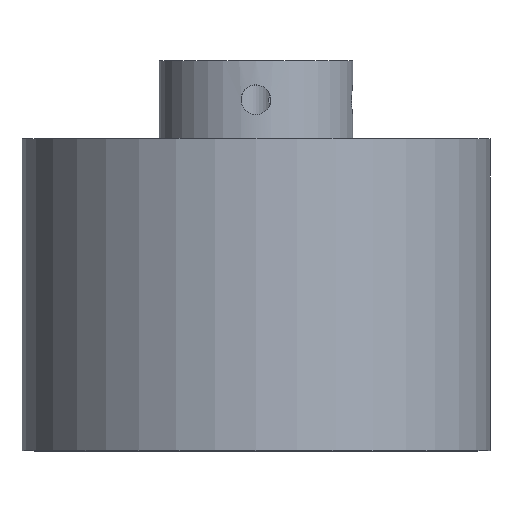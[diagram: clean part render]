
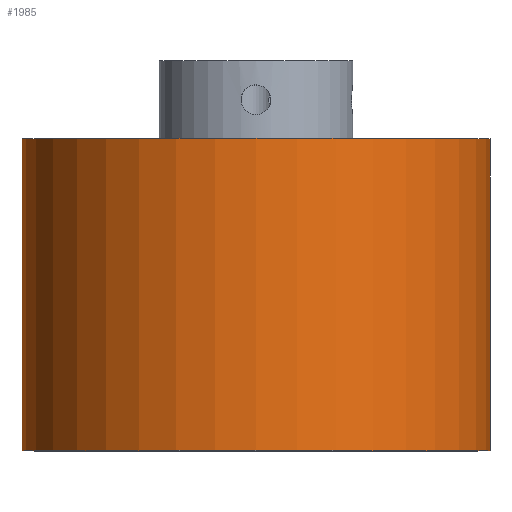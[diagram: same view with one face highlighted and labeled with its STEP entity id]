
A CAD part, top view. The second image highlights one B-rep face of the part: STEP entity #1985.
In plain terms, the highlighted cylindrical face has radius 38.1 mm (diameter 76.2 mm), a full revolution.
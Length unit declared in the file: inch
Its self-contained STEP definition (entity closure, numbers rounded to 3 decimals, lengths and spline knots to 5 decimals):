
#271=FACE_OUTER_BOUND('',#380,.T.);
#380=EDGE_LOOP('',(#1709,#1710,#1711,#1712));
#549=LINE('',#3327,#695);
#695=VECTOR('',#2779,1.5);
#702=CIRCLE('',#2018,1.5);
#815=CIRCLE('',#2216,1.5);
#822=VERTEX_POINT('',#2818);
#991=VERTEX_POINT('',#3325);
#1009=EDGE_CURVE('',#822,#822,#702,.T.);
#1262=EDGE_CURVE('',#991,#991,#815,.T.);
#1263=EDGE_CURVE('',#991,#822,#549,.T.);
#1709=ORIENTED_EDGE('',*,*,#1262,.F.);
#1710=ORIENTED_EDGE('',*,*,#1263,.T.);
#1711=ORIENTED_EDGE('',*,*,#1009,.F.);
#1712=ORIENTED_EDGE('',*,*,#1263,.F.);
#1894=CYLINDRICAL_SURFACE('',#2215,1.5);
#1985=ADVANCED_FACE('',(#271),#1894,.T.);
#2018=AXIS2_PLACEMENT_3D('',#2819,#2241,#2242);
#2215=AXIS2_PLACEMENT_3D('',#3324,#2775,#2776);
#2216=AXIS2_PLACEMENT_3D('',#3326,#2777,#2778);
#2241=DIRECTION('center_axis',(0.,-1.,0.));
#2242=DIRECTION('ref_axis',(-1.,0.,0.));
#2775=DIRECTION('center_axis',(0.,1.,0.));
#2776=DIRECTION('ref_axis',(-1.,0.,0.));
#2777=DIRECTION('center_axis',(0.,1.,0.));
#2778=DIRECTION('ref_axis',(-1.,0.,0.));
#2779=DIRECTION('',(0.,-1.,0.));
#2818=CARTESIAN_POINT('',(1.5,-1.,0.));
#2819=CARTESIAN_POINT('Origin',(0.,-1.,0.));
#3324=CARTESIAN_POINT('Origin',(0.,0.,0.));
#3325=CARTESIAN_POINT('',(1.5,1.,0.));
#3326=CARTESIAN_POINT('Origin',(0.,1.,0.));
#3327=CARTESIAN_POINT('',(1.5,0.,0.));
